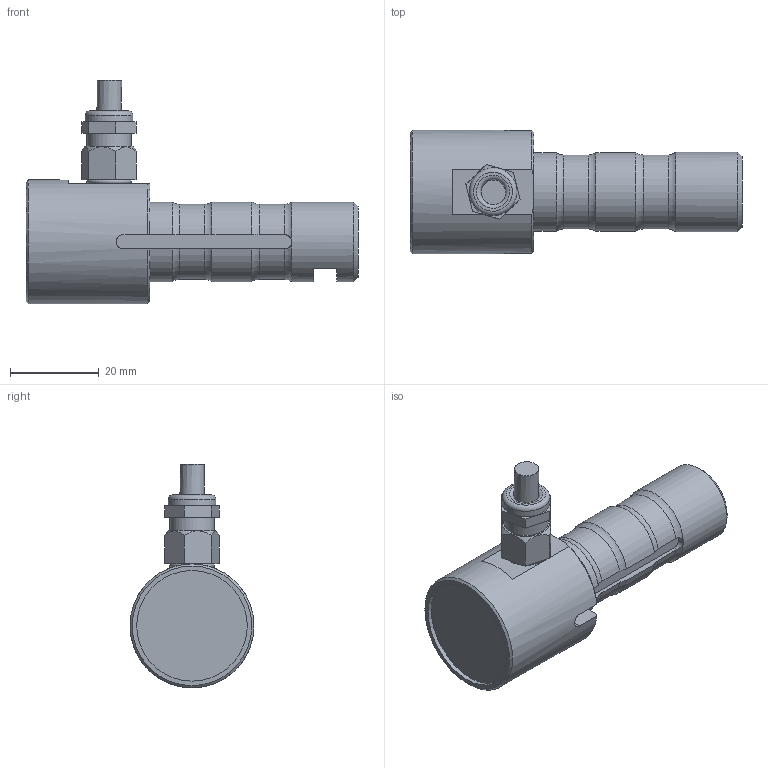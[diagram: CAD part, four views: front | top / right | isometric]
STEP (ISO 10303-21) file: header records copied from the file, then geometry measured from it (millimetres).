
FILE_DESCRIPTION(/* description */ ('Alibre Inc.'),/* implementation_level */ '2;1');
FILE_NAME(/* name */ 'export-9D2AF628-5952-4FF8-8F1B-FB664214139F',/* time_stamp */ '2019-04-09T09:32:51+02:00',/* author */ (''),/* organization */ (''),/* preprocessor_version */ 'ST-DEVELOPER v17',/* originating_system */ 'Alibre',/* authorisation */ '');
FILE_SCHEMA (('CONFIG_CONTROL_DESIGN'));
Length unit declared in the file: centimetre
Products named in the file (6): ID_1
Bounding box: 75 x 28 x 50.52 mm (x, y, z)
Volume: 28418.3 mm3; surface area: 8450.7 mm2
Topology: 4 solids, 4 shells, 87 faces, 211 edges, 137 vertices
Faces by surface type: plane 42, cylinder 25, torus 11, cone 8, bspline 1
Full cylindrical faces by diameter (mm): 5.5 x1, 6 x1, 7 x1, 8 x1, 10 x1, 10.8 x1, 18 x1, 25 x1, 28 x1
Entity records: 3466 total; most frequent: CARTESIAN_POINT 1091, ORIENTED_EDGE 374, DIRECTION 310, EDGE_CURVE 187, AXIS2_PLACEMENT_3D 133, VERTEX_POINT 132, FACE_BOUND 113, EDGE_LOOP 112
